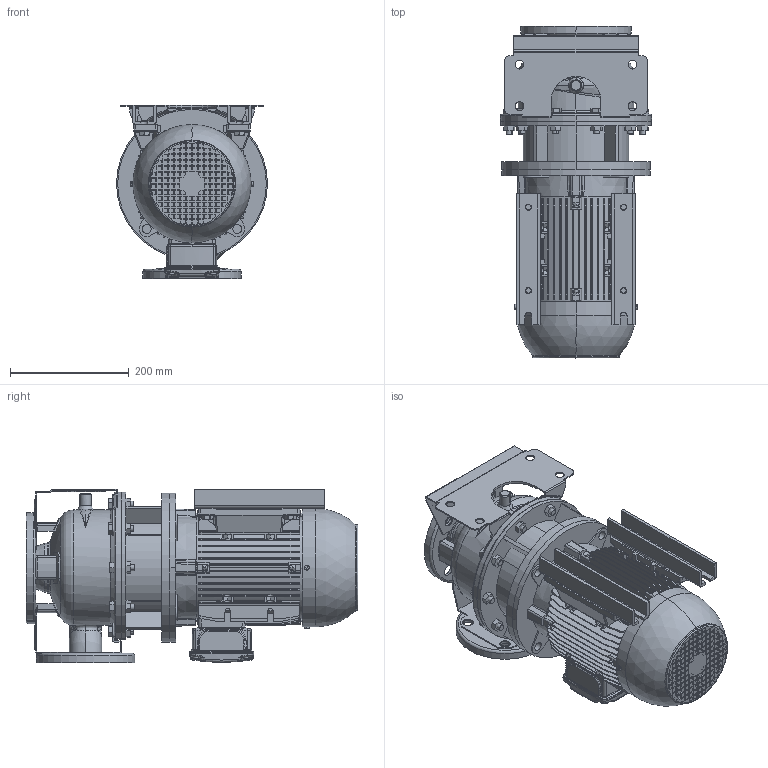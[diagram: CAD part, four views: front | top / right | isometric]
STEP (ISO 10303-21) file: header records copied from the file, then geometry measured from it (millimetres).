
FILE_DESCRIPTION (( 'STEP AP214' ), '1' );
FILE_NAME ('3LS 50-125_3.0_(100L)_W21.STEP', '2026-04-27T03:43:16', ( '' ), ( '' ), 'SwSTEP 2.0', 'SolidWorks 2024', '' );
FILE_SCHEMA (( 'AUTOMOTIVE_DESIGN' ));
Length unit declared in the file: inch
Products named in the file (3): 50-125_3_ie2_STEP; 100L ALIE3_W21T_B35; 3LS 50-125_3.0_(100L)_W21
Assembly tree (2 placements, depth 2):
  3LS 50-125_3.0_(100L)_W21
    50-125_3_ie2_STEP
    100L ALIE3_W21T_B35
Bounding box: 254 x 558.1 x 292 mm (x, y, z)
Volume: 14329103.5 mm3; surface area: 1526672.3 mm2
Topology: 17 solids, 17 shells, 3451 faces, 9016 edges, 5843 vertices
Faces by surface type: plane 2221, cylinder 737, torus 190, bspline 144, cone 135, sphere 24
Entity records: 153948 total; most frequent: CARTESIAN_POINT 69811, ORIENTED_EDGE 18008, DIRECTION 16511, EDGE_CURVE 9004, LINE 6099, VECTOR 6099, VERTEX_POINT 5843, AXIS2_PLACEMENT_3D 5206
